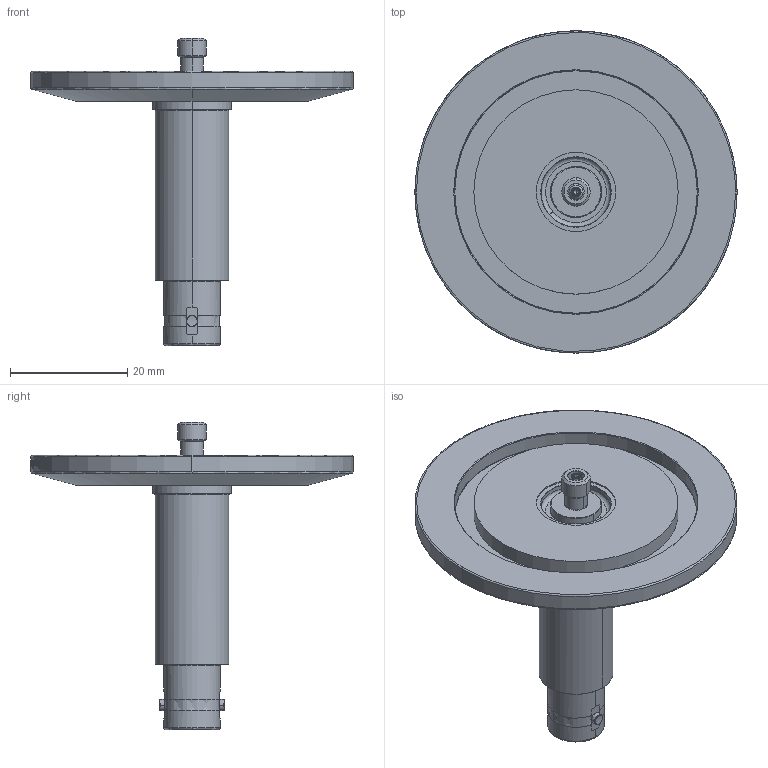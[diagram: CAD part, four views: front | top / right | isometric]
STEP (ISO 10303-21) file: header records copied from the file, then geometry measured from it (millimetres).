
FILE_DESCRIPTION (( 'STEP AP203' ), '1' );
FILE_NAME ('113140.stp', '2018-04-17T22:27:26', ( '' ), ( '' ), 'SwSTEP 2.0', 'SolidWorks 2012', '' );
FILE_SCHEMA (( 'CONFIG_CONTROL_DESIGN' ));
Length unit declared in the file: centimetre
Products named in the file (1): 113140
Bounding box: 54.86 x 54.86 x 52.32 mm (x, y, z)
Volume: 12441 mm3; surface area: 9778.4 mm2
Topology: 1 solids, 1 shells, 515 faces, 1353 edges, 885 vertices
Faces by surface type: bspline 181, plane 170, cylinder 108, cone 56
Entity records: 41811 total; most frequent: CARTESIAN_POINT 30295, ORIENTED_EDGE 2698, DIRECTION 1891, EDGE_CURVE 1349, VERTEX_POINT 885, AXIS2_PLACEMENT_3D 705, EDGE_LOOP 564, ADVANCED_FACE 515
